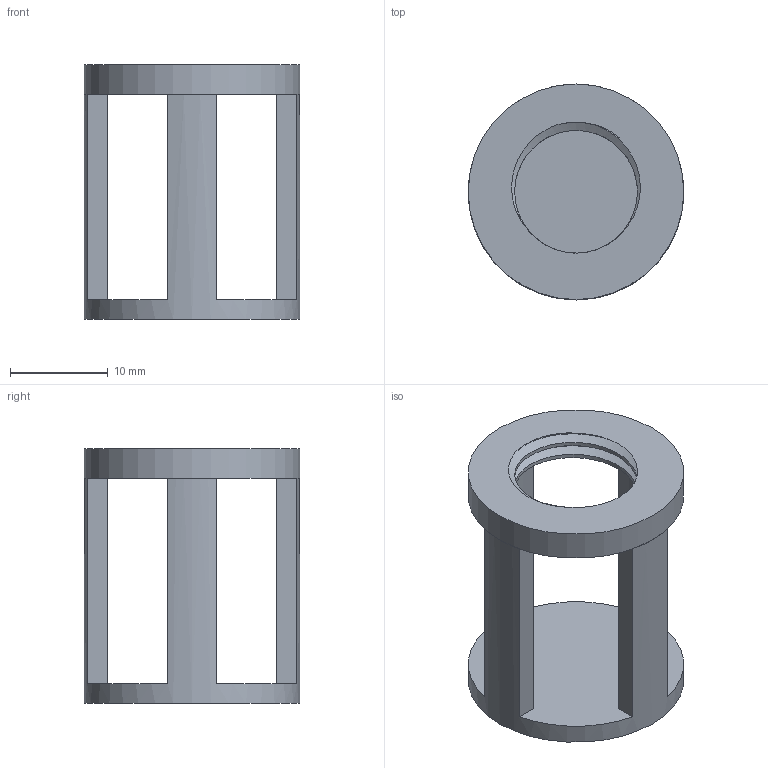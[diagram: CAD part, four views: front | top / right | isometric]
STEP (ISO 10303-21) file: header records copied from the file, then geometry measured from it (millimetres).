
FILE_DESCRIPTION(/* description */ (''),/* implementation_level */ '2;1');
FILE_NAME(/* name */ 'SolenoidSpringCap v5.step',/* time_stamp */ '2023-08-25T16:39:38+03:00',/* author */ (''),/* organization */ (''),/* preprocessor_version */ 'ST-DEVELOPER v20',/* originating_system */ 'Autodesk Translation Framework v12.9.0.99',/* authorisation */ '');
FILE_SCHEMA (('AUTOMOTIVE_DESIGN { 1 0 10303 214 3 1 1 }'));
Length unit declared in the file: millimetre
Products named in the file (1): XRN_SolenoidSpringCap
Bounding box: 22 x 22 x 26 mm (x, y, z)
Volume: 2337.9 mm3; surface area: 2993.8 mm2
Topology: 2 solids, 2 shells, 30 faces, 78 edges, 52 vertices
Faces by surface type: plane 16, cylinder 12, bspline 2
Full cylindrical faces by diameter (mm): 12.526 x1, 14.203 x1, 22 x2
Entity records: 1872 total; most frequent: CARTESIAN_POINT 1109, ORIENTED_EDGE 156, DIRECTION 144, EDGE_CURVE 78, AXIS2_PLACEMENT_3D 53, VERTEX_POINT 52, LINE 38, VECTOR 38
